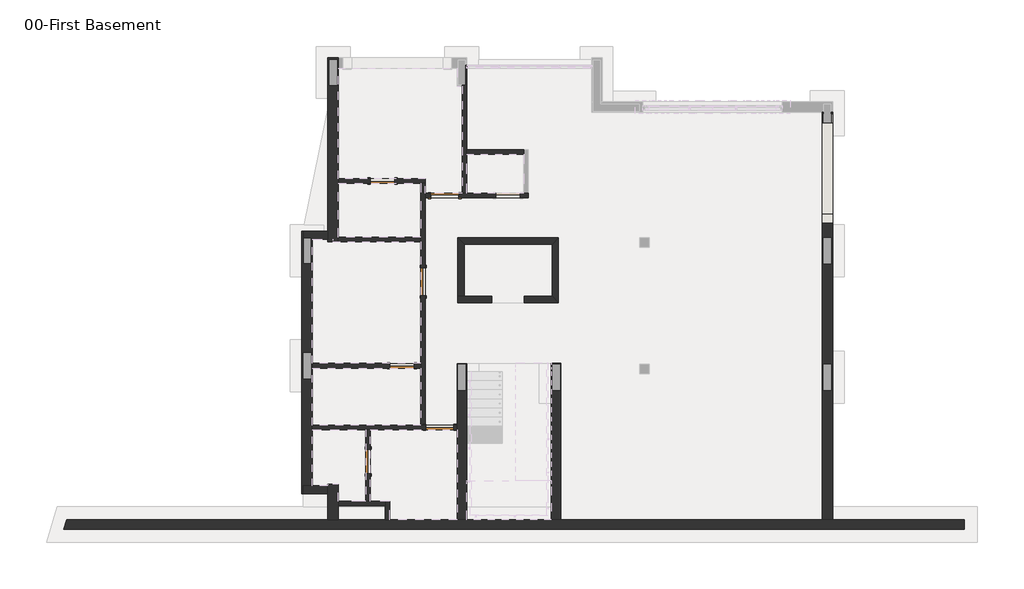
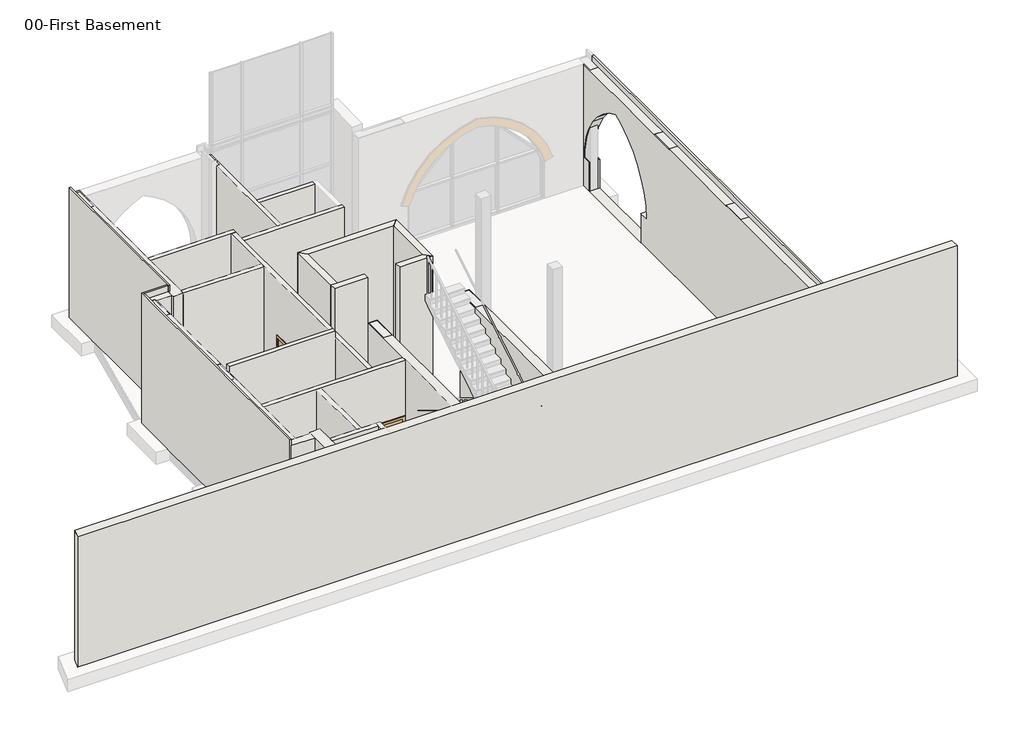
# One storey, part 1 of 5: 25 walls, 6 doors.
"""IFC4 building model written with IfcOpenShell, lengths in millimetres."""

from ifc_helpers import new_model, si_unit, frame, origin, place, context, project, spatial, polyline, circle_curve, outline, extrude, faceted_brep, transform, mapped, element, save
from ifc_brep_helpers import plane_surface, revolved_surface, advanced_brep
from components import m_single_flush_0762_x_2134mm_ed6e5a06, m_single_flush_0762_x_2134mm_95badebb, m_single_flush_0864_x_2134mm_717f285b, m_single_flush_0864_x_2134mm_1f46d79d

model = new_model("IFC4")

# Units and contexts
model_context = context("Model", 3, world=origin())
ifc_project = project(units=[si_unit("LENGTHUNIT", "METRE", prefix="MILLI")], contexts=[model_context])

# Site, building, storey
site = spatial("IfcSite", under=ifc_project)
building = spatial("IfcBuilding", under=site)
storey = spatial("IfcBuildingStorey", under=building, Name="00-First Basement", Elevation=-4350.0)

# Doors
placement = place(None, origin())
m_single_flush_0762_x_2134mm_shape = m_single_flush_0762_x_2134mm_ed6e5a06(model_context)
element("IfcDoor", 1, ObjectType="M_Single-Flush : 0762 x 2134mm", at=placement, inside=storey, context=model_context, shape_type="MappedRepresentation", body=[
    mapped(m_single_flush_0762_x_2134mm_shape, transform((-11034.314163, -3917.1156522, -4250.0), x_axis=(1.0, 0.0, 0.0), y_axis=(0.0, 1.0, 0.0), z_axis=(0.0, 0.0, 1.0))),
])
m_single_flush_0762_x_2134mm_2_shape = m_single_flush_0762_x_2134mm_95badebb(model_context)
element("IfcDoor", 2, ObjectType="M_Single-Flush : 0762 x 2134mm", at=placement, inside=storey, context=model_context, shape_type="MappedRepresentation", body=[
    mapped(m_single_flush_0762_x_2134mm_2_shape, transform((-12080.5689025, -6867.1034696, -4250.0), x_axis=(0.0, 1.0, 0.0), y_axis=(-1.0, 0.0, 0.0), z_axis=(0.0, 0.0, 1.0))),
])
element("IfcDoor", 3, ObjectType="M_Single-Flush : 0762 x 2134mm", at=placement, inside=storey, context=model_context, shape_type="MappedRepresentation", body=[
    mapped(m_single_flush_0762_x_2134mm_2_shape, transform((-11634.314163, 1783.8965304, -4250.0), x_axis=(-1.0, 0.0, 0.0), y_axis=(0.0, -1.0, 0.0), z_axis=(0.0, 0.0, 1.0))),
])
m_single_flush_0864_x_2134mm_shape = m_single_flush_0864_x_2134mm_717f285b(model_context)
element("IfcDoor", 4, ObjectType="M_Single-Flush : 0864 x 2134mm", at=placement, inside=storey, context=model_context, shape_type="MappedRepresentation", body=[
    mapped(m_single_flush_0864_x_2134mm_shape, transform((-9867.0580776, -5816.1034696, -4250.0), x_axis=(1.0, 0.0, 0.0), y_axis=(0.0, 1.0, 0.0), z_axis=(0.0, 0.0, 1.0))),
])
m_single_flush_0864_x_2134mm_2_shape = m_single_flush_0864_x_2134mm_1f46d79d(model_context)
element("IfcDoor", 5, ObjectType="M_Single-Flush : 0864 x 2134mm", at=placement, inside=storey, context=model_context, shape_type="MappedRepresentation", body=[
    mapped(m_single_flush_0864_x_2134mm_2_shape, transform((-10383.314163, -1318.1034696, -4250.0), x_axis=(0.0, 1.0, 0.0), y_axis=(-1.0, 0.0, 0.0), z_axis=(0.0, 0.0, 1.0))),
])
element("IfcDoor", 6, ObjectType="M_Single-Flush : 0864 x 2134mm", at=placement, inside=storey, context=model_context, shape_type="MappedRepresentation", body=[
    mapped(m_single_flush_0864_x_2134mm_2_shape, transform((-9717.0580776, 1334.1261566, -4250.0), x_axis=(1.0, 0.0, 0.0), y_axis=(0.0, 1.0, 0.0), z_axis=(0.0, 0.0, 1.0))),
])

# Walls
element("IfcWall", 7, ObjectType="Exterior Wall 50+100+50+100 CMU", at=placement, inside=storey, context=model_context, shape_type="Brep", body=[
    faceted_brep([(-13810.5689025, -16.1034696, -4350.0), (-13810.5689025, -16.1034696, -200.0), (-13810.5689025, -5746.1034696, -200.0), (-13810.5689025, -5886.1034696, -200.0), (-13810.5689025, -7616.5009541, -200.0), (-13810.5689025, -7616.5009541, -4350.0), (-13810.5689025, -5886.1034696, -4350.0), (-13810.5689025, -5746.1034696, -4350.0), (-13810.5689025, -3987.1156522, -4350.0), (-13810.5689025, -3847.1156522, -4350.0), (-14130.5689025, 233.8965304, -4350.0), (-14130.5689025, -7866.5009541, -4350.0), (-14130.5689025, -7866.5009541, 0.0), (-14130.5689025, -7546.5009541, 0.0), (-14130.5689025, 233.8965304, 0.0), (-14080.5689025, 233.8965304, -4350.0), (-14080.5689025, 33.8965304, -4350.0), (-14080.5689025, -766.1034696, -4350.0), (-13830.5689025, -766.1034696, -4350.0), (-13830.5689025, -16.1034696, -4350.0), (-14080.5689025, -7616.5009541, -4350.0), (-14080.5689025, -7866.5009541, -4350.0), (-13830.5689025, -4318.0271687, -4350.0), (-13830.5689025, -3518.0271687, -4350.0), (-14080.5689025, -3518.0271687, -4350.0), (-14080.5689025, -4318.0271687, -4350.0), (-14080.5689025, 233.8965304, 0.0), (-14080.5689025, -7866.5009541, 0.0), (-14080.5689025, -4318.0271687, 0.0), (-14080.5689025, -3518.0271687, 0.0), (-14080.5689025, -766.1034696, 0.0), (-14080.5689025, 33.8965304, 0.0), (-14080.5689025, 183.8965304, 0.0), (-14080.5689025, -7866.5009541, -200.0), (-13830.5689025, -766.1034696, -200.0), (-13830.5689025, -16.1034696, -200.0), (-14080.5689025, -766.1034696, -200.0), (-14080.5689025, -3518.0271687, -200.0), (-14080.5689025, -7616.5009541, -200.0), (-14080.5689025, -4318.0271687, -200.0), (-13830.5689025, -4318.0271687, -200.0), (-13830.5689025, -3518.0271687, -200.0)], [[[0, 1, 2, 3, 4, 5, 6, 7, 8, 9]], [[10, 11, 12, 13, 14]], [[11, 10, 15, 16, 17, 18, 19, 0, 9, 8, 7, 6, 5, 20, 21], [22, 23, 24, 25]], [[10, 14, 26, 15]], [[14, 13, 12, 27, 28, 29, 30, 31, 32, 26]], [[12, 11, 21, 33, 27]], [[18, 34, 35, 19]], [[18, 17, 36, 34]], [[25, 24, 37, 36, 17, 16, 15, 26, 32, 31, 30, 29, 28, 27, 33, 21, 20, 38, 39]], [[23, 22, 40, 41]], [[22, 25, 39, 40]], [[24, 23, 41, 37]], [[36, 37, 41, 40, 39, 38, 4, 3, 2, 1, 35, 34]], [[1, 0, 19, 35]], [[38, 20, 5, 4]]]),
])
element("IfcWall", 8, ObjectType="Exterior Wall 50+100+50+100 CMU", at=placement, inside=storey, context=model_context, shape_type="Brep", body=[
    faceted_brep([(-13010.5689025, -86.1034696, -4350.0), (-13010.5689025, 53.8965304, -4350.0), (-13010.5689025, 1713.8965304, -4350.0), (-13010.5689025, 1853.8965304, -4350.0), (-13010.5689025, 5263.8965304, -4350.0), (-13010.5689025, 5583.8965304, -4350.0), (-13010.5689025, 5583.8965304, -200.0), (-13010.5689025, 5263.8965304, -200.0), (-13010.5689025, 1853.8965304, -200.0), (-13010.5689025, 1713.8965304, -200.0), (-13010.5689025, 53.8965304, -200.0), (-13010.5689025, -86.1034696, -200.0), (-13330.5689025, 5583.8965304, -4350.0), (-13330.5689025, 233.8965304, -4350.0), (-13330.5689025, -16.1034696, -4350.0), (-13330.5689025, -86.1034696, -4350.0), (-13330.5689025, -86.1034696, -200.0), (-13330.5689025, -16.1034696, -200.0), (-13330.5689025, 183.8965304, -200.0), (-13330.5689025, 183.8965304, 0.0), (-13330.5689025, 233.8965304, 0.0), (-13330.5689025, 5583.8965304, 0.0), (-13030.5689025, 4733.8965304, -4350.0), (-13030.5689025, 5533.8965304, -4350.0), (-13280.5689025, 5533.8965304, -4350.0), (-13280.5689025, 4733.8965304, -4350.0), (-13280.5689025, 183.8965304, 0.0), (-13280.5689025, 4733.8965304, 0.0), (-13280.5689025, 5533.8965304, 0.0), (-13280.5689025, 5583.8965304, 0.0), (-13280.5689025, 5583.8965304, -200.0), (-13030.5689025, 4733.8965304, -200.0), (-13030.5689025, 5533.8965304, -200.0), (-13280.5689025, 4733.8965304, -200.0), (-13280.5689025, 5533.8965304, -200.0), (-13280.5689025, 183.8965304, -200.0)], [[[0, 1, 2, 3, 4, 5, 6, 7, 8, 9, 10, 11]], [[12, 13, 14, 15, 16, 17, 18, 19, 20, 21]], [[5, 4, 3, 2, 1, 0, 15, 14, 13, 12], [22, 23, 24, 25]], [[26, 27, 28, 29, 21, 20, 19]], [[5, 12, 21, 29, 30, 6]], [[23, 22, 31, 32]], [[22, 25, 33, 31]], [[25, 24, 34, 30, 29, 28, 27, 26, 35, 33]], [[24, 23, 32, 34]], [[15, 0, 11, 16]], [[33, 35, 18, 17, 16, 11, 10, 9, 8, 7, 6, 30, 34, 32, 31]], [[35, 26, 19, 18]]]),
])
element("IfcWall", 9, ObjectType="Exterior Wall 50+100+50+100 CMU", at=placement, inside=storey, context=model_context, shape_type="AdvancedBrep", body=[
    advanced_brep(
    [(2256.4825148, -8662.9805769, -4350.0), (2256.4825148, 3906.127499, -4350.0), (2256.4825148, 3906.127499, 0.0), (2256.4825148, -5241.5009541, 0.0), (2256.4825148, -8662.9805769, 0.0), (2256.4825148, 3837.6405228, -2944.5387912), (2256.4825148, 3866.127499, -3282.6911916), (2256.4825148, 3580.5030398, -3282.6911916), (2256.4825148, 3580.5030398, -4250.0), (2256.4825148, 756.5030398, -4250.0), (2256.4825148, 756.5030398, -3282.6911916), (2256.4825148, 470.8785806, -3282.6911916), (2256.4825148, 756.4973817, -2128.9788053), (2256.4825148, 963.5010904, -1782.6031869), (2256.4825148, 1215.2604945, -1475.5141465), (2256.4825148, 1505.0272825, -1211.8741116), (2256.4825148, 1867.965004, -971.3486255), (2256.4825148, 2168.5030398, -828.6689239), (2256.4825148, 2500.9784153, -989.2763131), (2256.4825148, 2831.5504383, -1211.5377399), (2256.4825148, 3160.3540986, -1516.9848918), (2256.4825148, 3373.7425557, -1782.9407783), (2256.4825148, 3614.4430692, -2199.2938404), (2256.4825148, 3739.6659282, -2520.7828801), (1936.4825148, 3906.127499, -4350.0), (1936.4825148, -8662.9805769, -4350.0), (1936.4825148, -8662.9805769, -200.0), (1936.4825148, 3906.127499, -200.0), (1936.4825148, 3866.127499, -3282.6911916), (1936.4825148, 3837.6405228, -2944.5387912), (1936.4825148, 3739.6659282, -2520.7828801), (1936.4825148, 3614.4430692, -2199.2938404), (1936.4825148, 3373.7425557, -1782.9407783), (1936.4825148, 3160.3540986, -1516.9848918), (1936.4825148, 2831.5504383, -1211.5377399), (1936.4825148, 2500.9784153, -989.2763131), (1936.4825148, 2168.5030398, -828.6689239), (1936.4825148, 1867.965004, -971.3486255), (1936.4825148, 1505.0272825, -1211.8741116), (1936.4825148, 1215.2604945, -1475.5141465), (1936.4825148, 963.5010904, -1782.6031869), (1936.4825148, 756.4973817, -2128.9788053), (1936.4825148, 470.8785806, -3282.6911916), (1936.4825148, 756.5030398, -3282.6911916), (1936.4825148, 756.5030398, -4250.0), (1936.4825148, 3580.5030398, -4250.0), (1936.4825148, 3580.5030398, -3282.6911916), (1956.4825148, 3906.127499, -4350.0), (1956.4825148, 3576.127499, -4350.0), (2206.4825148, 3576.127499, -4350.0), (2206.4825148, 3906.127499, -4350.0), (2206.4825148, -4666.5009541, -4350.0), (2206.4825148, -3866.5009541, -4350.0), (1956.4825148, -3866.5009541, -4350.0), (1956.4825148, -4666.5009541, -4350.0), (2206.4825148, -766.1034696, -4350.0), (2206.4825148, 33.8965304, -4350.0), (1956.4825148, 33.8965304, -4350.0), (1956.4825148, -766.1034696, -4350.0), (2206.4825148, 3906.127499, 0.0), (2206.4825148, -8662.9805769, 0.0), (2206.4825148, -8662.9805769, -200.0), (2206.4825148, 3576.127499, -200.0), (2206.4825148, 33.8965304, -200.0), (2206.4825148, -766.1034696, -200.0), (2206.4825148, -3866.5009541, -200.0), (2206.4825148, -4666.5009541, -200.0), (2206.4825148, 3576.127499, -4250.0), (2206.4825148, 3580.5030398, -4250.0), (2206.4825148, 3580.5030398, -3282.6911916), (2206.4825148, 3866.127499, -3282.6911916), (2206.4825148, 3837.6405228, -2944.5387912), (2206.4825148, 3739.6659282, -2520.7828801), (2206.4825148, 3614.4430692, -2199.2938404), (2206.4825148, 3576.127499, -2120.2646742), (1956.4825148, -4666.5009541, -200.0), (1956.4825148, -3866.5009541, -200.0), (1956.4825148, -766.1034696, -200.0), (1956.4825148, 33.8965304, -200.0), (1956.4825148, 3906.127499, -200.0), (1956.4825148, 3576.127499, -2120.2646742), (1956.4825148, 3576.127499, -200.0), (1956.4825148, 3576.127499, -4250.0), (1956.4825148, 3614.4430692, -2199.2938404), (1956.4825148, 3739.6659282, -2520.7828801), (1956.4825148, 3837.6405228, -2944.5387912), (1956.4825148, 3866.127499, -3282.6911916), (1956.4825148, 3580.5030398, -3282.6911916), (1956.4825148, 3580.5030398, -4250.0)],
    [
        (0, 1),
        (1, 2),
        (2, 3),
        (3, 4),
        (4, 0),
        (5, 6, circle_curve(frame((2256.4825148, 1160.2169139, -3340.3691304), z_axis=(-1.0, 0.0, 0.0), x_axis=(0.0, 1.0, 0.0)), 2706.5252334)),
        (6, 7),
        (7, 8),
        (8, 9),
        (9, 10),
        (10, 11),
        (11, 12, circle_curve(frame((2256.4825148, 3176.7891656, -3340.3691304), z_axis=(-1.0, 0.0, 0.0), x_axis=(0.0, 1.0, 0.0)), 2706.5252334)),
        (12, 13, circle_curve(frame((2256.4825148, 3176.7891656, -3340.3691304), z_axis=(-1.0, 0.0, 0.0), x_axis=(0.0, 1.0, 0.0)), 2706.5252334)),
        (13, 14, circle_curve(frame((2256.4825148, 3176.7891656, -3340.3691304), z_axis=(-1.0, 0.0, 0.0), x_axis=(0.0, 1.0, 0.0)), 2706.5252334)),
        (14, 15, circle_curve(frame((2256.4825148, 3176.7891656, -3340.3691304), z_axis=(-1.0, 0.0, 0.0), x_axis=(0.0, 1.0, 0.0)), 2706.5252334)),
        (15, 16, circle_curve(frame((2256.4825148, 3176.7891656, -3340.3691304), z_axis=(-1.0, 0.0, 0.0), x_axis=(0.0, 1.0, 0.0)), 2706.5252334)),
        (16, 17, circle_curve(frame((2256.4825148, 3176.7891656, -3340.3691304), z_axis=(-1.0, 0.0, 0.0), x_axis=(0.0, 1.0, 0.0)), 2706.5252334)),
        (17, 18, circle_curve(frame((2256.4825148, 1160.2169139, -3340.3691304), z_axis=(-1.0, 0.0, 0.0), x_axis=(0.0, 1.0, 0.0)), 2706.5252334)),
        (18, 19, circle_curve(frame((2256.4825148, 1160.2169139, -3340.3691304), z_axis=(-1.0, 0.0, 0.0), x_axis=(0.0, 1.0, 0.0)), 2706.5252334)),
        (19, 20, circle_curve(frame((2256.4825148, 1160.2169139, -3340.3691304), z_axis=(-1.0, 0.0, 0.0), x_axis=(0.0, 1.0, 0.0)), 2706.5252334)),
        (20, 21, circle_curve(frame((2256.4825148, 1160.2169139, -3340.3691304), z_axis=(-1.0, 0.0, 0.0), x_axis=(0.0, 1.0, 0.0)), 2706.5252334)),
        (21, 22, circle_curve(frame((2256.4825148, 1160.2169139, -3340.3691304), z_axis=(-1.0, 0.0, 0.0), x_axis=(0.0, 1.0, 0.0)), 2706.5252334)),
        (22, 23, circle_curve(frame((2256.4825148, 1160.2169139, -3340.3691304), z_axis=(-1.0, 0.0, 0.0), x_axis=(0.0, 1.0, 0.0)), 2706.5252334)),
        (23, 5, circle_curve(frame((2256.4825148, 1160.2169139, -3340.3691304), z_axis=(-1.0, 0.0, 0.0), x_axis=(0.0, 1.0, 0.0)), 2706.5252334)),
        (24, 25),
        (25, 26),
        (26, 27),
        (27, 24),
        (28, 29, circle_curve(frame((1936.4825148, 1160.2169139, -3340.3691304), z_axis=(1.0, 0.0, 0.0), x_axis=(0.0, 1.0, 0.0)), 2706.5252334)),
        (29, 30, circle_curve(frame((1936.4825148, 1160.2169139, -3340.3691304), z_axis=(1.0, 0.0, 0.0), x_axis=(0.0, 1.0, 0.0)), 2706.5252334)),
        (30, 31, circle_curve(frame((1936.4825148, 1160.2169139, -3340.3691304), z_axis=(1.0, 0.0, 0.0), x_axis=(0.0, 1.0, 0.0)), 2706.5252334)),
        (31, 32, circle_curve(frame((1936.4825148, 1160.2169139, -3340.3691304), z_axis=(1.0, 0.0, 0.0), x_axis=(0.0, 1.0, 0.0)), 2706.5252334)),
        (32, 33, circle_curve(frame((1936.4825148, 1160.2169139, -3340.3691304), z_axis=(1.0, 0.0, 0.0), x_axis=(0.0, 1.0, 0.0)), 2706.5252334)),
        (33, 34, circle_curve(frame((1936.4825148, 1160.2169139, -3340.3691304), z_axis=(1.0, 0.0, 0.0), x_axis=(0.0, 1.0, 0.0)), 2706.5252334)),
        (34, 35, circle_curve(frame((1936.4825148, 1160.2169139, -3340.3691304), z_axis=(1.0, 0.0, 0.0), x_axis=(0.0, 1.0, 0.0)), 2706.5252334)),
        (35, 36, circle_curve(frame((1936.4825148, 1160.2169139, -3340.3691304), z_axis=(1.0, 0.0, 0.0), x_axis=(0.0, 1.0, 0.0)), 2706.5252334)),
        (36, 37, circle_curve(frame((1936.4825148, 3176.7891656, -3340.3691304), z_axis=(1.0, 0.0, 0.0), x_axis=(0.0, 1.0, 0.0)), 2706.5252334)),
        (37, 38, circle_curve(frame((1936.4825148, 3176.7891656, -3340.3691304), z_axis=(1.0, 0.0, 0.0), x_axis=(0.0, 1.0, 0.0)), 2706.5252334)),
        (38, 39, circle_curve(frame((1936.4825148, 3176.7891656, -3340.3691304), z_axis=(1.0, 0.0, 0.0), x_axis=(0.0, 1.0, 0.0)), 2706.5252334)),
        (39, 40, circle_curve(frame((1936.4825148, 3176.7891656, -3340.3691304), z_axis=(1.0, 0.0, 0.0), x_axis=(0.0, 1.0, 0.0)), 2706.5252334)),
        (40, 41, circle_curve(frame((1936.4825148, 3176.7891656, -3340.3691304), z_axis=(1.0, 0.0, 0.0), x_axis=(0.0, 1.0, 0.0)), 2706.5252334)),
        (41, 42, circle_curve(frame((1936.4825148, 3176.7891656, -3340.3691304), z_axis=(1.0, 0.0, 0.0), x_axis=(0.0, 1.0, 0.0)), 2706.5252334)),
        (42, 43),
        (43, 44),
        (44, 45),
        (45, 46),
        (46, 28),
        (0, 25),
        (24, 47),
        (47, 48),
        (48, 49),
        (49, 50),
        (50, 1),
        (51, 52),
        (52, 53),
        (53, 54),
        (54, 51),
        (55, 56),
        (56, 57),
        (57, 58),
        (58, 55),
        (2, 59),
        (59, 60),
        (60, 4),
        (60, 61),
        (61, 26),
        (62, 63),
        (63, 56),
        (55, 64),
        (64, 65),
        (65, 52),
        (51, 66),
        (66, 61),
        (59, 50),
        (49, 67),
        (67, 68),
        (68, 69),
        (69, 70),
        (70, 71, circle_curve(frame((2206.4825148, 1160.2169139, -3340.3691304), z_axis=(1.0, 0.0, 0.0), x_axis=(0.0, 1.0, 0.0)), 2706.5252334)),
        (71, 72, circle_curve(frame((2206.4825148, 1160.2169139, -3340.3691304), z_axis=(1.0, 0.0, 0.0), x_axis=(0.0, 1.0, 0.0)), 2706.5252334)),
        (72, 73, circle_curve(frame((2206.4825148, 1160.2169139, -3340.3691304), z_axis=(1.0, 0.0, 0.0), x_axis=(0.0, 1.0, 0.0)), 2706.5252334)),
        (73, 74, circle_curve(frame((2206.4825148, 1160.2169139, -3340.3691304), z_axis=(1.0, 0.0, 0.0), x_axis=(0.0, 1.0, 0.0)), 2706.5252334)),
        (74, 62),
        (54, 75),
        (75, 66),
        (53, 76),
        (76, 75),
        (65, 76),
        (58, 77),
        (77, 64),
        (57, 78),
        (78, 77),
        (63, 78),
        (27, 79),
        (79, 47),
        (74, 80),
        (80, 81),
        (81, 62),
        (48, 82),
        (82, 67),
        (79, 81),
        (80, 83, circle_curve(frame((1956.4825148, 1160.2169139, -3340.3691304), z_axis=(-1.0, 0.0, 0.0), x_axis=(0.0, 1.0, 0.0)), 2706.5252334)),
        (83, 84, circle_curve(frame((1956.4825148, 1160.2169139, -3340.3691304), z_axis=(-1.0, 0.0, 0.0), x_axis=(0.0, 1.0, 0.0)), 2706.5252334)),
        (84, 85, circle_curve(frame((1956.4825148, 1160.2169139, -3340.3691304), z_axis=(-1.0, 0.0, 0.0), x_axis=(0.0, 1.0, 0.0)), 2706.5252334)),
        (85, 86, circle_curve(frame((1956.4825148, 1160.2169139, -3340.3691304), z_axis=(-1.0, 0.0, 0.0), x_axis=(0.0, 1.0, 0.0)), 2706.5252334)),
        (86, 87),
        (87, 88),
        (88, 82),
        (5, 71),
        (70, 6),
        (28, 86),
        (85, 29),
        (23, 72),
        (84, 30),
        (22, 73),
        (83, 31),
        (21, 32),
        (20, 33),
        (19, 34),
        (18, 35),
        (17, 36),
        (16, 37),
        (15, 38),
        (14, 39),
        (13, 40),
        (12, 41),
        (11, 42),
        (10, 43),
        (9, 44),
        (8, 68),
        (88, 45),
        (7, 69),
        (87, 46),
    ],
    [
        plane_surface(frame((2256.4825148, -8638.1518178, -4350.0), z_axis=(1.0, 0.0, 0.0), x_axis=(0.0, 1.0, 0.0))),
        plane_surface(frame((1936.4825148, -8638.1518178, -4350.0), z_axis=(-1.0, 0.0, 0.0), x_axis=(0.0, -1.0, 0.0))),
        plane_surface(frame((2256.4825148, -8812.9805769, -4350.0), z_axis=(0.0, 0.0, -1.0), x_axis=(-1.0, 0.0, 0.0))),
        plane_surface(frame((2256.4825148, 4066.127499, 0.0), z_axis=(0.0, 0.0, 1.0), x_axis=(-1.0, 0.0, 0.0))),
        plane_surface(frame((6320.9943715, -8662.9805769, -4350.0), z_axis=(0.0, -1.0, 0.0), x_axis=(-1.0, 0.0, 0.0))),
        plane_surface(frame((2206.4825148, -4666.5009541, 0.0), z_axis=(-1.0, 0.0, 0.0), x_axis=(0.0, 0.0, -1.0))),
        plane_surface(frame((1956.4825148, -4666.5009541, 0.0), z_axis=(0.0, 1.0, 0.0), x_axis=(0.0, 0.0, -1.0))),
        plane_surface(frame((1956.4825148, -3866.5009541, 0.0), z_axis=(1.0, 0.0, 0.0), x_axis=(0.0, 0.0, -1.0))),
        plane_surface(frame((2206.4825148, -3866.5009541, 0.0), z_axis=(0.0, -1.0, 0.0), x_axis=(0.0, 0.0, -1.0))),
        plane_surface(frame((1956.4825148, -766.1034696, 0.0), z_axis=(0.0, 1.0, 0.0), x_axis=(0.0, 0.0, -1.0))),
        plane_surface(frame((1956.4825148, 33.8965304, 0.0), z_axis=(1.0, 0.0, 0.0), x_axis=(0.0, 0.0, -1.0))),
        plane_surface(frame((2206.4825148, 33.8965304, 0.0), z_axis=(0.0, -1.0, 0.0), x_axis=(0.0, 0.0, -1.0))),
        plane_surface(frame((599.3011398, 3906.127499, -4350.0), z_axis=(0.0, 1.0, 0.0), x_axis=(1.0, 0.0, 0.0))),
        plane_surface(frame((1956.4825148, 3576.127499, 0.0), z_axis=(0.0, 1.0, 0.0), x_axis=(0.0, 0.0, -1.0))),
        plane_surface(frame((1956.4825148, 4176.127499, 0.0), z_axis=(1.0, 0.0, 0.0), x_axis=(0.0, 0.0, -1.0))),
        plane_surface(frame((-14080.5689025, 183.8965304, -200.0), z_axis=(0.0, 0.0, 1.0), x_axis=(1.0, 0.0, 0.0))),
        revolved_surface(polyline([(2256.4825148, 3866.7421473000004, -3340.3691304), (2206.4825148, 3866.7421473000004, -3340.3691304)]), (1936.4825148, 1160.2169139, -3340.3691304), (1.0, 0.0, 0.0)),
        revolved_surface(polyline([(1956.4825148, 3866.7421473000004, -3340.3691304), (1936.4825148, 3866.7421473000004, -3340.3691304)]), (1936.4825148, 1160.2169139, -3340.3691304), (1.0, 0.0, 0.0)),
        revolved_surface(polyline([(2256.4825148, 3866.7421473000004, -3340.3691304), (1936.4825148, 3866.7421473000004, -3340.3691304)]), (1936.4825148, 1160.2169139, -3340.3691304), (1.0, 0.0, 0.0)),
        revolved_surface(polyline([(2256.4825148, 5883.314399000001, -3340.3691304), (1936.4825148, 5883.314399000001, -3340.3691304)]), (1936.4825148, 3176.7891656, -3340.3691304), (1.0, 0.0, 0.0)),
        plane_surface(frame((2256.4825148, 470.8785806, -3282.6911916), z_axis=(0.0, 0.0, 1.0), x_axis=(-1.0, 0.0, 0.0))),
        plane_surface(frame((2256.4825148, 756.5030398, -3282.6911916), z_axis=(0.0, 1.0, 0.0), x_axis=(-1.0, 0.0, 0.0))),
        plane_surface(frame((2256.4825148, 756.5030398, -4250.0), z_axis=(0.0, 0.0, 1.0), x_axis=(-1.0, 0.0, 0.0))),
        plane_surface(frame((2256.4825148, 3580.5030398, -4250.0), z_axis=(0.0, -1.0, 0.0), x_axis=(-1.0, 0.0, 0.0))),
        plane_surface(frame((2256.4825148, 3580.5030398, -3282.6911916), z_axis=(0.0, 0.0, 1.0), x_axis=(-1.0, 0.0, 0.0))),
    ],
    [
        (0, [[1, 2, 3, 4, 5], [6, 7, 8, 9, 10, 11, 12, 13, 14, 15, 16, 17, 18, 19, 20, 21, 22, 23, 24]]),
        (1, [[25, 26, 27, 28], [29, 30, 31, 32, 33, 34, 35, 36, 37, 38, 39, 40, 41, 42, 43, 44, 45, 46, 47]]),
        (2, [[-1, 48, -25, 49, 50, 51, 52, 53], [54, 55, 56, 57], [58, 59, 60, 61]]),
        (3, [[-4, -3, 62, 63, 64]]),
        (4, [[-5, -64, 65, 66, -26, -48]]),
        (5, [[67, 68, -58, 69, 70, 71, -54, 72, 73, -65, -63, 74, -52, 75, 76, 77, 78, 79, 80, 81, 82, 83]]),
        (6, [[-57, 84, 85, -72]]),
        (7, [[-56, 86, 87, -84]]),
        (8, [[-55, -71, 88, -86]]),
        (9, [[-61, 89, 90, -69]]),
        (10, [[-60, 91, 92, -89]]),
        (11, [[-59, -68, 93, -91]]),
        (12, [[-2, -53, -74, -62]]),
        (12, [[-49, -28, 94, 95]]),
        (13, [[96, 97, 98, -83]]),
        (13, [[-75, -51, 99, 100]]),
        (14, [[-50, -95, 101, -97, 102, 103, 104, 105, 106, 107, 108, -99]]),
        (15, [[-73, -85, -87, -88, -70, -90, -92, -93, -67, -98, -101, -94, -27, -66]]),
        (16, [[-6, 109, -79, 110]]),
        (17, [[-29, 111, -105, 112]]),
        (16, [[-24, 113, -80, -109]]),
        (17, [[-30, -112, -104, 114]]),
        (16, [[-23, 115, -81, -113]]),
        (17, [[-31, -114, -103, 116]]),
        (18, [[117, -32, -116, -102, -96, -82, -115, -22]]),
        (18, [[-117, -21, 118, -33]]),
        (18, [[-118, -20, 119, -34]]),
        (18, [[-119, -19, 120, -35]]),
        (18, [[-120, -18, 121, -36]]),
        (19, [[-121, -17, 122, -37]]),
        (19, [[-122, -16, 123, -38]]),
        (19, [[-123, -15, 124, -39]]),
        (19, [[-124, -14, 125, -40]]),
        (19, [[-125, -13, 126, -41]]),
        (19, [[-126, -12, 127, -42]]),
        (20, [[-127, -11, 128, -43]]),
        (21, [[-128, -10, 129, -44]]),
        (22, [[-129, -9, 130, -76, -100, -108, 131, -45]]),
        (23, [[-8, 132, -77, -130]]),
        (23, [[-46, -131, -107, 133]]),
        (24, [[-7, -110, -78, -132]]),
        (24, [[-47, -133, -106, -111]]),
    ],
),
])
element("IfcWall", 10, ObjectType="Exterior Wall 50+100+50+100 CMU", at=placement, inside=storey, context=model_context, shape_type="Brep", body=[
    faceted_brep([(-13010.5689025, -8662.9805769, -4350.0), (-13010.5689025, -8236.5009541, -4350.0), (-13010.5689025, -8096.5009541, -4350.0), (-13010.5689025, -7566.5009541, -4350.0), (-13010.5689025, -7566.5009541, -200.0), (-13010.5689025, -8096.5009541, -200.0), (-13010.5689025, -8236.5009541, -200.0), (-13010.5689025, -8662.9805769, -200.0), (-13330.5689025, -8662.9805769, -4350.0), (-13330.5689025, -8662.9805769, -200.0), (-13330.5689025, -7866.5009541, -200.0), (-13330.5689025, -7616.5009541, -200.0), (-13330.5689025, -7566.5009541, -200.0), (-13330.5689025, -7566.5009541, -4350.0), (-13330.5689025, -7616.5009541, -4350.0), (-13330.5689025, -7866.5009541, -4350.0)], [[[0, 1, 2, 3, 4, 5, 6, 7]], [[8, 9, 10, 11, 12, 13, 14, 15]], [[3, 2, 1, 0, 8, 15, 14, 13]], [[4, 3, 13, 12]], [[0, 7, 9, 8]], [[7, 6, 5, 4, 12, 11, 10, 9]]]),
])
element("IfcWall", 11, ObjectType="Exteriror Wall - 250mm Masonry With Cladding", at=placement, inside=storey, context=model_context, shape_type="Brep", body=[
    faceted_brep([(-13330.5689025, -16.1034696, -4350.0), (-13330.5689025, -16.1034696, -200.0), (-13810.5689025, -16.1034696, -200.0), (-13830.5689025, -16.1034696, -200.0), (-13830.5689025, -16.1034696, -4350.0), (-13810.5689025, -16.1034696, -4350.0), (-13330.5689025, 233.8965304, -4350.0), (-14080.5689025, 233.8965304, -4350.0), (-14080.5689025, 233.8965304, 0.0), (-13330.5689025, 233.8965304, 0.0), (-13830.5689025, 33.8965304, -4350.0), (-14080.5689025, 33.8965304, -4350.0), (-14080.5689025, 183.8965304, 0.0), (-13330.5689025, 183.8965304, 0.0), (-14080.5689025, 33.8965304, -200.0), (-14080.5689025, 183.8965304, -200.0), (-13330.5689025, 183.8965304, -200.0), (-13830.5689025, 33.8965304, -200.0)], [[[0, 1, 2, 3, 4, 5]], [[6, 7, 8, 9]], [[7, 6, 0, 5, 4, 10, 11]], [[9, 8, 12, 13]], [[8, 7, 11, 14, 15, 12]], [[0, 6, 9, 13, 16, 1]], [[16, 15, 14, 17, 3, 2, 1]], [[15, 16, 13, 12]], [[17, 10, 4, 3]], [[10, 17, 14, 11]]]),
])
element("IfcWall", 12, ObjectType="Exteriror Wall - 250mm Masonry With Cladding", at=placement, inside=storey, context=model_context, shape_type="Brep", body=[
    faceted_brep([(-13330.5689025, -7616.5009541, -4350.0), (-13810.5689025, -7616.5009541, -4350.0), (-14080.5689025, -7616.5009541, -4350.0), (-14080.5689025, -7616.5009541, -200.0), (-13810.5689025, -7616.5009541, -200.0), (-13330.5689025, -7616.5009541, -200.0), (-13330.5689025, -7866.5009541, -4350.0), (-13330.5689025, -7866.5009541, -200.0), (-14080.5689025, -7866.5009541, -200.0), (-14080.5689025, -7866.5009541, -4350.0)], [[[0, 1, 2, 3, 4, 5]], [[6, 7, 8, 9]], [[2, 1, 0, 6, 9]], [[3, 2, 9, 8]], [[0, 5, 7, 6]], [[5, 4, 3, 8, 7]]]),
])
element("IfcWall", 13, ObjectType="Interiror Wall - 140mm Masonry with plaster", at=placement, inside=storey, context=model_context, shape_type="SweptSolid", body=[
    extrude(outline(polyline([(-10453.314163, -86.1034696), (-13010.5689025, -86.1034696), (-13010.5689025, 53.8965304), (-10453.314163, 53.8965304), (-10453.314163, -86.1034696)])), frame((0.0, 0.0, -4350.0), z_axis=(0.0, 0.0, 1.0), x_axis=(1.0, 0.0, 0.0)), (0.0, 0.0, 1.0), 4150.0),
])
element("IfcWall", 14, ObjectType="Interiror Wall - 140mm Masonry with plaster", at=placement, inside=storey, context=model_context, shape_type="Brep", body=[
    faceted_brep([(-13010.5689025, 1713.8965304, -4350.0), (-10453.314163, 1713.8965304, -4350.0), (-10313.314163, 1713.8965304, -4350.0), (-10313.314163, 1713.8965304, -200.0), (-10453.314163, 1713.8965304, -200.0), (-13010.5689025, 1713.8965304, -200.0), (-11253.314163, 1713.8965304, -4250.0), (-12015.314163, 1713.8965304, -4250.0), (-12015.314163, 1713.8965304, -2116.0), (-11253.314163, 1713.8965304, -2116.0), (-13010.5689025, 1853.8965304, -4350.0), (-13010.5689025, 1853.8965304, -200.0), (-10313.314163, 1853.8965304, -200.0), (-10313.314163, 1853.8965304, -4350.0), (-11253.314163, 1853.8965304, -4250.0), (-11253.314163, 1853.8965304, -2116.0), (-12015.314163, 1853.8965304, -2116.0), (-12015.314163, 1853.8965304, -4250.0)], [[[0, 1, 2, 3, 4, 5], [6, 7, 8, 9]], [[10, 11, 12, 13], [14, 15, 16, 17]], [[2, 1, 0, 10, 13]], [[0, 5, 11, 10]], [[3, 2, 13, 12]], [[5, 4, 3, 12, 11]], [[7, 6, 14, 17]], [[8, 7, 17, 16]], [[9, 8, 16, 15]], [[6, 9, 15, 14]]]),
])
element("IfcWall", 15, ObjectType="Interiror Wall - 140mm Masonry with plaster", at=placement, inside=storey, context=model_context, shape_type="Brep", body=[
    faceted_brep([(-10453.314163, 1713.8965304, -4350.0), (-10453.314163, 53.8965304, -4350.0), (-10453.314163, -86.1034696, -4350.0), (-10453.314163, -3847.1156522, -4350.0), (-10453.314163, -3987.1156522, -4350.0), (-10453.314163, -5746.1034696, -4350.0), (-10453.314163, -5746.1034696, -200.0), (-10453.314163, -86.1034696, -200.0), (-10453.314163, 53.8965304, -200.0), (-10453.314163, 1713.8965304, -200.0), (-10453.314163, -1750.1034696, -4250.0), (-10453.314163, -886.1034696, -4250.0), (-10453.314163, -886.1034696, -2116.0), (-10453.314163, -1750.1034696, -2116.0), (-10313.314163, 1713.8965304, -4350.0), (-10313.314163, 1713.8965304, -200.0), (-10313.314163, 1404.1261566, -200.0), (-10313.314163, 1264.1261566, -200.0), (-10313.314163, -5746.1034696, -200.0), (-10313.314163, -5746.1034696, -4350.0), (-10313.314163, 1264.1261566, -4350.0), (-10313.314163, 1404.1261566, -4350.0), (-10313.314163, -1750.1034696, -4250.0), (-10313.314163, -1750.1034696, -2116.0), (-10313.314163, -886.1034696, -2116.0), (-10313.314163, -886.1034696, -4250.0)], [[[0, 1, 2, 3, 4, 5, 6, 7, 8, 9], [10, 11, 12, 13]], [[14, 15, 16, 17, 18, 19, 20, 21], [22, 23, 24, 25]], [[5, 4, 3, 2, 1, 0, 14, 21, 20, 19]], [[0, 9, 15, 14]], [[6, 5, 19, 18]], [[9, 8, 7, 6, 18, 17, 16, 15]], [[11, 10, 22, 25]], [[12, 11, 25, 24]], [[13, 12, 24, 23]], [[10, 13, 23, 22]]]),
])
element("IfcWall", 16, ObjectType="Interiror Wall - 140mm Masonry with plaster", at=placement, inside=storey, context=model_context, shape_type="Brep", body=[
    faceted_brep([(-13810.5689025, -5886.1034696, -4350.0), (-12150.5689025, -5886.1034696, -4350.0), (-12010.5689025, -5886.1034696, -4350.0), (-9335.0580776, -5886.1034696, -4350.0), (-9335.0580776, -5886.1034696, -200.0), (-12010.5689025, -5886.1034696, -200.0), (-12150.5689025, -5886.1034696, -200.0), (-13810.5689025, -5886.1034696, -200.0), (-10299.0580776, -5886.1034696, -4250.0), (-10299.0580776, -5886.1034696, -2116.0), (-9435.0580776, -5886.1034696, -2116.0), (-9435.0580776, -5886.1034696, -4250.0), (-13810.5689025, -5746.1034696, -4350.0), (-13810.5689025, -5746.1034696, -200.0), (-10453.314163, -5746.1034696, -200.0), (-10313.314163, -5746.1034696, -200.0), (-9335.0580776, -5746.1034696, -200.0), (-9335.0580776, -5746.1034696, -4350.0), (-10313.314163, -5746.1034696, -4350.0), (-10453.314163, -5746.1034696, -4350.0), (-10299.0580776, -5746.1034696, -4250.0), (-9435.0580776, -5746.1034696, -4250.0), (-9435.0580776, -5746.1034696, -2116.0), (-10299.0580776, -5746.1034696, -2116.0)], [[[0, 1, 2, 3, 4, 5, 6, 7], [8, 9, 10, 11]], [[12, 13, 14, 15, 16, 17, 18, 19], [20, 21, 22, 23]], [[3, 2, 1, 0, 12, 19, 18, 17]], [[0, 7, 13, 12]], [[4, 3, 17, 16]], [[7, 6, 5, 4, 16, 15, 14, 13]], [[21, 20, 8, 11]], [[22, 21, 11, 10]], [[23, 22, 10, 9]], [[20, 23, 9, 8]]]),
])
element("IfcWall", 17, ObjectType="Interiror Wall - 140mm Masonry with plaster", at=placement, inside=storey, context=model_context, shape_type="Brep", body=[
    faceted_brep([(-11410.5689025, -8662.9805769, -4350.0), (-11410.5689025, -8096.5009541, -4350.0), (-11410.5689025, -8096.5009541, -200.0), (-11410.5689025, -8662.9805769, -200.0), (-11550.5689025, -8662.9805769, -4350.0), (-11550.5689025, -8662.9805769, -200.0), (-11550.5689025, -8236.5009541, -200.0), (-11550.5689025, -8096.5009541, -200.0), (-11550.5689025, -8096.5009541, -4350.0), (-11550.5689025, -8236.5009541, -4350.0)], [[[0, 1, 2, 3]], [[4, 5, 6, 7, 8, 9]], [[1, 0, 4, 9, 8]], [[0, 3, 5, 4]], [[2, 1, 8, 7]], [[3, 2, 7, 6, 5]]]),
])
element("IfcWall", 18, ObjectType="Interiror Wall - 140mm Masonry with plaster", at=placement, inside=storey, context=model_context, shape_type="Brep", body=[
    faceted_brep([(-11550.5689025, -8096.5009541, -4350.0), (-12010.5689025, -8096.5009541, -4350.0), (-12150.5689025, -8096.5009541, -4350.0), (-13010.5689025, -8096.5009541, -4350.0), (-13010.5689025, -8096.5009541, -200.0), (-12150.5689025, -8096.5009541, -200.0), (-12010.5689025, -8096.5009541, -200.0), (-11550.5689025, -8096.5009541, -200.0), (-11550.5689025, -8236.5009541, -4350.0), (-11550.5689025, -8236.5009541, -200.0), (-13010.5689025, -8236.5009541, -200.0), (-13010.5689025, -8236.5009541, -4350.0)], [[[0, 1, 2, 3, 4, 5, 6, 7]], [[8, 9, 10, 11]], [[3, 2, 1, 0, 8, 11]], [[0, 7, 9, 8]], [[4, 3, 11, 10]], [[7, 6, 5, 4, 10, 9]]]),
])
element("IfcWall", 19, ObjectType="Interiror Wall - 140mm Masonry with plaster", at=placement, inside=storey, context=model_context, shape_type="SweptSolid", body=[
    extrude(outline(polyline([(-8096.5009541, -4350.0), (-8096.5009541, -200.0), (-5886.1034696, -200.0), (-5886.1034696, -4350.0), (-8096.5009541, -4350.0)]), holes=[polyline([(-7248.1034696, -4250.0), (-6486.1034696, -4250.0), (-6486.1034696, -2116.0), (-7248.1034696, -2116.0), (-7248.1034696, -4250.0)])]), frame((-12150.5689025, 0.0, 0.0), z_axis=(1.0, 0.0, 0.0), x_axis=(0.0, 1.0, 0.0)), (0.0, 0.0, 1.0), 140.0),
])
element("IfcWall", 20, ObjectType="Interiror Wall - 140mm Masonry with plaster", at=placement, inside=storey, context=model_context, shape_type="Brep", body=[
    faceted_brep([(-9185.0580776, 1404.1261566, -4350.0), (-9185.0580776, 1404.1261566, -200.0), (-9185.0580776, 4733.8965304, -200.0), (-9185.0580776, 4733.8965304, -4350.0), (-9185.0580776, 4713.8965304, -4350.0), (-9045.0580776, 1404.1261566, -4350.0), (-9045.0580776, 2614.3416604, -4350.0), (-9045.0580776, 2754.3416604, -4350.0), (-9045.0580776, 5358.8965304, -4350.0), (-9045.0580776, 5358.8965304, -200.0), (-9045.0580776, 5283.8965304, -200.0), (-9045.0580776, 2754.3416604, -200.0), (-9045.0580776, 2614.3416604, -200.0), (-9045.0580776, 1404.1261566, -200.0), (-9065.0580776, 4733.8965304, -4350.0), (-9065.0580776, 5358.8965304, -4350.0), (-9065.0580776, 5358.8965304, -200.0), (-9115.0580776, 1404.1261566, -200.0), (-9065.0580776, 5283.8965304, -200.0), (-9065.0580776, 4733.8965304, -200.0)], [[[0, 1, 2, 3, 4]], [[5, 6, 7, 8, 9, 10, 11, 12, 13]], [[8, 7, 6, 5, 0, 4, 3, 14, 15]], [[9, 8, 15, 16]], [[1, 0, 5, 13, 17]], [[10, 9, 16, 18]], [[1, 17, 13, 12, 11, 10, 18, 19, 2]], [[14, 19, 18, 16, 15]], [[19, 14, 3, 2]]]),
])
element("IfcWall", 21, ObjectType="Interiror Wall - 140mm Masonry with plaster", at=placement, inside=storey, context=model_context, shape_type="Brep", body=[
    faceted_brep([(-10313.314163, 1264.1261566, -4350.0), (-7143.314163, 1264.1261566, -4350.0), (-7143.314163, 1264.1261566, -200.0), (-10313.314163, 1264.1261566, -200.0), (-8145.314163, 1264.1261566, -4250.0), (-8145.314163, 1264.1261566, -2116.0), (-7383.314163, 1264.1261566, -2116.0), (-7383.314163, 1264.1261566, -4250.0), (-10149.0580776, 1264.1261566, -4250.0), (-10149.0580776, 1264.1261566, -2116.0), (-9285.0580776, 1264.1261566, -2116.0), (-9285.0580776, 1264.1261566, -4250.0), (-10313.314163, 1404.1261566, -4350.0), (-10313.314163, 1404.1261566, -200.0), (-9185.0580776, 1404.1261566, -200.0), (-9045.0580776, 1404.1261566, -200.0), (-7283.314163, 1404.1261566, -200.0), (-7143.314163, 1404.1261566, -200.0), (-7143.314163, 1404.1261566, -4350.0), (-7283.314163, 1404.1261566, -4350.0), (-9045.0580776, 1404.1261566, -4350.0), (-9185.0580776, 1404.1261566, -4350.0), (-8145.314163, 1404.1261566, -4250.0), (-7383.314163, 1404.1261566, -4250.0), (-7383.314163, 1404.1261566, -2116.0), (-8145.314163, 1404.1261566, -2116.0), (-10149.0580776, 1404.1261566, -4250.0), (-9285.0580776, 1404.1261566, -4250.0), (-9285.0580776, 1404.1261566, -2116.0), (-10149.0580776, 1404.1261566, -2116.0)], [[[0, 1, 2, 3], [4, 5, 6, 7], [8, 9, 10, 11]], [[12, 13, 14, 15, 16, 17, 18, 19, 20, 21], [22, 23, 24, 25], [26, 27, 28, 29]], [[1, 0, 12, 21, 20, 19, 18]], [[0, 3, 13, 12]], [[2, 1, 18, 17]], [[3, 2, 17, 16, 15, 14, 13]], [[23, 22, 4, 7]], [[24, 23, 7, 6]], [[25, 24, 6, 5]], [[22, 25, 5, 4]], [[27, 26, 8, 11]], [[28, 27, 11, 10]], [[29, 28, 10, 9]], [[26, 29, 9, 8]]]),
])
element("IfcWall", 22, ObjectType="Interiror Wall - 140mm Masonry with plaster", at=placement, inside=storey, context=model_context, shape_type="SweptSolid", body=[
    extrude(outline(polyline([(-9045.0580776, 2754.3416604), (-7283.314163, 2754.3416604), (-7283.314163, 2614.3416604), (-9045.0580776, 2614.3416604), (-9045.0580776, 2754.3416604)])), frame((0.0, 0.0, -4350.0), z_axis=(0.0, 0.0, 1.0), x_axis=(1.0, 0.0, 0.0)), (0.0, 0.0, 1.0), 4150.0),
])
element("IfcWall", 23, ObjectType="Interiror Wall - 140mm Masonry with plaster", at=placement, inside=storey, context=model_context, shape_type="SweptSolid", body=[
    extrude(outline(polyline([(-4350.0, -13810.5689025), (-4350.0, -10453.314163), (0.0, -10453.314163), (0.0, -13810.5689025), (-4350.0, -13810.5689025)]), holes=[polyline([(-4250.0, -11415.314163), (-2116.0, -11415.314163), (-2116.0, -10653.314163), (-4250.0, -10653.314163), (-4250.0, -11415.314163)])]), frame((0.0, -3987.1156522, 0.0), z_axis=(0.0, 1.0, 0.0), x_axis=(0.0, 0.0, 1.0)), (0.0, 0.0, 1.0), 140.0),
])
element("IfcWall", 24, ObjectType="Exterior Wall 100+50+100 CMU", at=placement, inside=storey, context=model_context, shape_type="Brep", body=[
    faceted_brep([(-9045.0580776, -8662.9805769, -4350.0), (-9045.0580776, -3847.9805769, -4350.0), (-9045.0580776, -3847.9805769, -200.0), (-9045.0580776, -8662.9805769, -200.0), (-9335.0580776, -3847.9805769, -4350.0), (-9335.0580776, -5746.1034696, -4350.0), (-9335.0580776, -5886.1034696, -4350.0), (-9335.0580776, -8662.9805769, -4350.0), (-9335.0580776, -8662.9805769, -200.0), (-9335.0580776, -5886.1034696, -200.0), (-9335.0580776, -5746.1034696, -200.0), (-9335.0580776, -3847.9805769, -200.0), (-9065.0580776, -4666.5009541, -4350.0), (-9065.0580776, -3866.5009541, -4350.0), (-9315.0580776, -3866.5009541, -4350.0), (-9315.0580776, -4666.5009541, -4350.0), (-9065.0580776, -3866.5009541, -200.0), (-9065.0580776, -4666.5009541, -200.0), (-9315.0580776, -4666.5009541, -200.0), (-9315.0580776, -3866.5009541, -200.0)], [[[0, 1, 2, 3]], [[4, 5, 6, 7, 8, 9, 10, 11]], [[1, 0, 7, 6, 5, 4], [12, 13, 14, 15]], [[2, 1, 4, 11]], [[0, 3, 8, 7]], [[3, 2, 11, 10, 9, 8], [16, 17, 18, 19]], [[12, 17, 16, 13]], [[17, 12, 15, 18]], [[18, 15, 14, 19]], [[19, 14, 13, 16]]]),
])
element("IfcWall", 25, ObjectType="Exterior Wall 100+50+100 CMU", at=placement, inside=storey, context=model_context, shape_type="SweptSolid", body=[
    extrude(outline(polyline([(-6137.8802351, -3846.5009541), (-6137.8802351, -8662.9805769), (-6427.8802351, -8662.9805769), (-6427.8802351, -3846.5009541), (-6137.8802351, -3846.5009541)]), holes=[polyline([(-6157.8802351, -4666.5009541), (-6157.8802351, -3866.5009541), (-6407.8802351, -3866.5009541), (-6407.8802351, -4666.5009541), (-6157.8802351, -4666.5009541)])]), frame((0.0, 0.0, -4350.0), z_axis=(0.0, 0.0, 1.0), x_axis=(1.0, 0.0, 0.0)), (0.0, 0.0, 1.0), 4150.0),
])
element("IfcWall", 26, ObjectType="Generic - 200mm - Filled", at=placement, inside=storey, context=model_context, shape_type="Brep", body=[
    faceted_brep([(-8260.3697638, -1765.2824965, -4350.0), (-9115.0580776, -1765.2824965, -4350.0), (-9315.0580776, -1765.2824965, -4350.0), (-9315.0580776, -1765.2824965, -200.0), (-9115.0580776, -1765.2824965, -200.0), (-8260.3697638, -1765.2824965, -200.0), (-8260.3697638, -1965.2824965, -4350.0), (-8260.3697638, -1965.2824965, -200.0), (-9315.0580776, -1965.2824965, -200.0), (-9315.0580776, -1965.2824965, -4350.0)], [[[0, 1, 2, 3, 4, 5]], [[6, 7, 8, 9]], [[2, 1, 0, 6, 9]], [[0, 5, 7, 6]], [[3, 2, 9, 8]], [[5, 4, 3, 8, 7]]]),
])
element("IfcWall", 27, ObjectType="Generic - 200mm - Filled", at=placement, inside=storey, context=model_context, shape_type="SweptSolid", body=[
    extrude(outline(polyline([(-9115.0580776, -166.1034696), (-9115.0580776, -1765.2824965), (-9315.0580776, -1765.2824965), (-9315.0580776, 33.8965304), (-9115.0580776, -166.1034696)])), frame((0.0, 0.0, -4350.0), z_axis=(0.0, 0.0, 1.0), x_axis=(1.0, 0.0, 0.0)), (0.0, 0.0, 1.0), 4150.0),
])
element("IfcWall", 28, ObjectType="Generic - 200mm - Filled", at=placement, inside=storey, context=model_context, shape_type="SweptSolid", body=[
    extrude(outline(polyline([(-6407.8802351, -166.1034696), (-9115.0580776, -166.1034696), (-9315.0580776, 33.8965304), (-6207.8802351, 33.8965304), (-6407.8802351, -166.1034696)])), frame((0.0, 0.0, -4350.0), z_axis=(0.0, 0.0, 1.0), x_axis=(1.0, 0.0, 0.0)), (0.0, 0.0, 1.0), 4150.0),
])
element("IfcWall", 29, ObjectType="Generic - 200mm - Filled", at=placement, inside=storey, context=model_context, shape_type="SweptSolid", body=[
    extrude(outline(polyline([(-6407.8802351, -1766.1034696), (-6407.8802351, -166.1034696), (-6207.8802351, 33.8965304), (-6207.8802351, -1966.1034696), (-6407.8802351, -1766.1034696)])), frame((0.0, 0.0, -4350.0), z_axis=(0.0, 0.0, 1.0), x_axis=(1.0, 0.0, 0.0)), (0.0, 0.0, 1.0), 4150.0),
])
element("IfcWall", 30, ObjectType="Generic - 200mm - Filled", at=placement, inside=storey, context=model_context, shape_type="SweptSolid", body=[
    extrude(outline(polyline([(-7262.5006886, -1766.1034696), (-6407.8802351, -1766.1034696), (-6207.8802351, -1966.1034696), (-7262.5006886, -1966.1034696), (-7262.5006886, -1766.1034696)])), frame((0.0, 0.0, -4350.0), z_axis=(0.0, 0.0, 1.0), x_axis=(1.0, 0.0, 0.0)), (0.0, 0.0, 1.0), 4150.0),
])
element("IfcWall", 31, ObjectType="Retaining - 300mm Concrete", at=placement, inside=storey, context=model_context, shape_type="Brep", body=[
    faceted_brep([(6320.9943715, -8662.9805769, 0.0), (6320.9943715, -8662.9805769, -4350.0), (-21381.3294917, -8662.9805769, -4350.0), (-21381.3294917, -8662.9805769, 0.0), (-14080.5689025, -8662.9805769, 0.0), (-9045.0580776, -8662.9805769, 0.0), (-6427.8802351, -8662.9805769, 0.0), (2206.4825148, -8662.9805769, 0.0), (-21470.1152601, -8962.9805769, -4350.0), (6320.9943715, -8962.9805769, -4350.0), (6320.9943715, -8962.9805769, 0.0), (-21470.1152601, -8962.9805769, 0.0)], [[[0, 1, 2, 3, 4, 5, 6, 7]], [[8, 9, 10, 11]], [[9, 8, 2, 1]], [[11, 10, 0, 7, 6, 5, 4, 3]], [[1, 0, 10, 9]], [[3, 2, 8, 11]]]),
])

save(model, "model.ifc")
